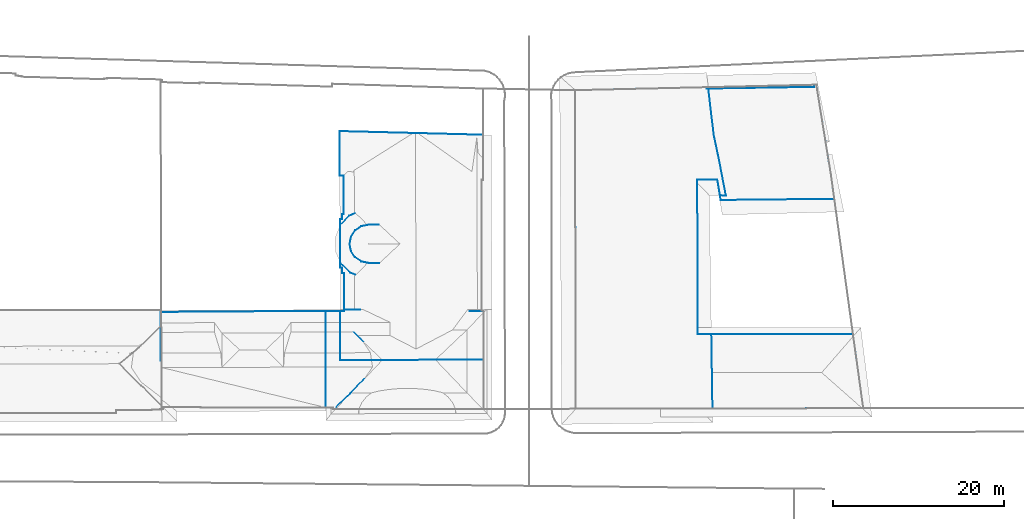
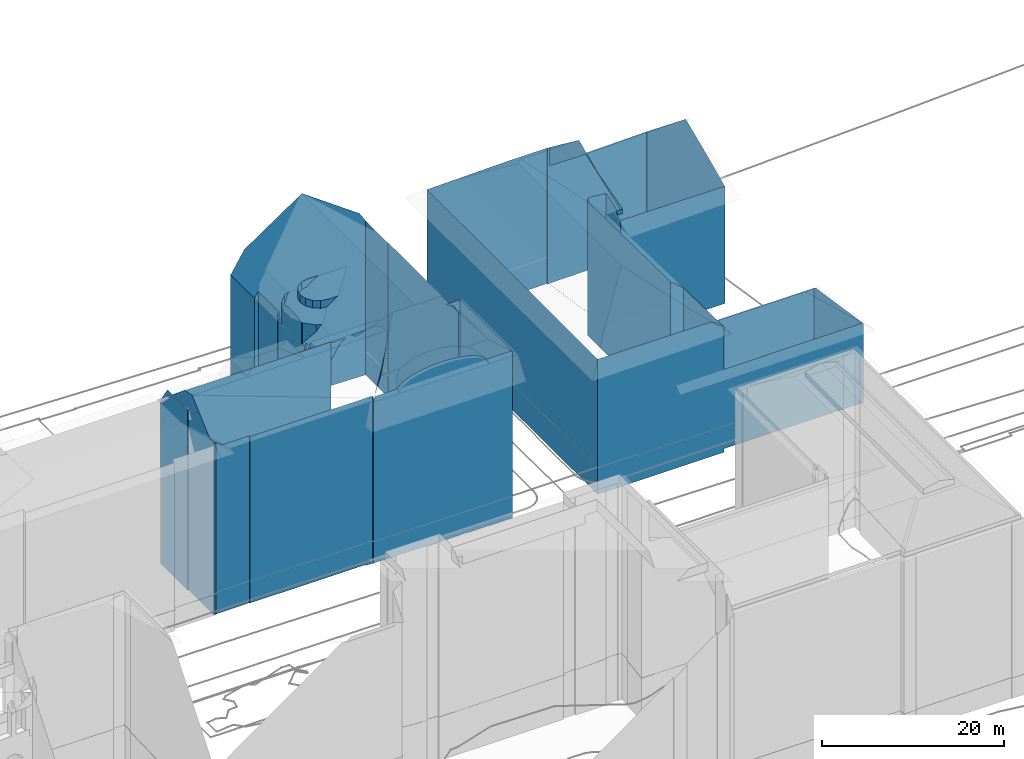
# Not in any storey, part 63 of 477: 2 walls.
"""IFC4 building model written with IfcOpenShell, lengths in metres."""

import ifcopenshell
import ifcopenshell.guid

model = None  # the IFC model being written
_history = None  # IfcOwnerHistory: only IFC2X3 demands one
_inside = {}  # id of a spatial element -> (the spatial element, [elements in it])
_under = {}  # id of a project, library or spatial element -> (it, [spatial elements below it])
_declared = {}  # id of a project -> (the project, [libraries it declares])
_typed = {}  # id of a type object -> (the type object, [elements of that type])
_made_of = {}  # id of a material, layer set ... -> (it, [elements and type objects made of it])


def new_model(schema):
    """Start an empty IFC model of exactly this schema.

    Asked for "IFC4X3", IfcOpenShell would pick the latest addendum, in which some entities
    have other attributes; the version numbers below select the first issue.
    IFC2X3 requires an IfcOwnerHistory on every rooted entity: one is made here for all.
    """
    global model, _history
    if schema == "IFC4X3":
        model = ifcopenshell.file(schema_version=(4, 3, 0, 0))
    else:
        model = ifcopenshell.file(schema=schema)
    _inside.clear()
    _under.clear()
    _declared.clear()
    _typed.clear()
    _made_of.clear()
    _history = None
    if model.schema == "IFC2X3":
        org = make("IfcOrganization", Name="unknown")
        user = make(
            "IfcPersonAndOrganization",
            ThePerson=make("IfcPerson", FamilyName="unknown"),
            TheOrganization=org,
        )
        app = make(
            "IfcApplication",
            ApplicationDeveloper=org,
            Version="unknown",
            ApplicationFullName="unknown",
            ApplicationIdentifier="unknown",
        )
        _history = make(
            "IfcOwnerHistory",
            OwningUser=user,
            OwningApplication=app,
            ChangeAction="ADDED",
            CreationDate=0,
        )
    return model


def make(cls, **values):
    """One entity of the class cls with the attributes given. An attribute that is None is left unset."""
    return model.create_entity(
        cls, **{name: value for name, value in values.items() if value is not None}
    )


def rooted(cls, **values):
    """An entity with a GlobalId (a new one), such as an element, a storey or a relation."""
    return make(cls, GlobalId=ifcopenshell.guid.new(), OwnerHistory=_history, **values)


def si_unit(unit_type, name, prefix=None):
    """IfcSIUnit, for example si_unit("LENGTHUNIT", "METRE", prefix="MILLI")."""
    return make("IfcSIUnit", UnitType=unit_type, Prefix=prefix, Name=name)


def assignment(units):
    """IfcUnitAssignment: the units of a project."""
    return None if units is None else make("IfcUnitAssignment", Units=units)


def point(xyz):
    """IfcCartesianPoint."""
    return None if xyz is None else make("IfcCartesianPoint", Coordinates=xyz)


def direction(xyz):
    """IfcDirection."""
    return None if xyz is None else make("IfcDirection", DirectionRatios=xyz)


def frame(location, z_axis=None, x_axis=None):
    """IfcAxis2Placement3D, a coordinate frame: its origin and axes. An axis left out is left unset."""
    return make(
        "IfcAxis2Placement3D",
        Location=point(location),
        Axis=direction(z_axis),
        RefDirection=direction(x_axis),
    )


def origin_with_axes():
    """The frame at (0, 0, 0) with the z axis (0, 0, 1) and the x axis (1, 0, 0) written out."""
    return frame((0.0, 0.0, 0.0), z_axis=(0.0, 0.0, 1.0), x_axis=(1.0, 0.0, 0.0))


def place(relative_to, where):
    """IfcLocalPlacement: puts the frame where relative to a parent placement (None: the world)."""
    return make(
        "IfcLocalPlacement", PlacementRelTo=relative_to, RelativePlacement=where
    )


def context(
    kind, dimensions, precision=None, world=None, true_north=None, identifier=None
):
    """IfcGeometricRepresentationContext, for example the 3D "Model" context."""
    return make(
        "IfcGeometricRepresentationContext",
        ContextIdentifier=identifier,
        ContextType=kind,
        CoordinateSpaceDimension=dimensions,
        Precision=precision,
        WorldCoordinateSystem=world,
        TrueNorth=true_north,
    )


def subcontext(parent, identifier, kind, view, scale=None):
    """IfcGeometricRepresentationSubContext, for example "Body" below "Model"."""
    return make(
        "IfcGeometricRepresentationSubContext",
        ContextIdentifier=identifier,
        ContextType=kind,
        ParentContext=parent,
        TargetScale=scale,
        TargetView=view,
    )


def project(units=None, contexts=None):
    """IfcProject with its units and contexts."""
    return rooted(
        "IfcProject",
        Name="project",
        RepresentationContexts=contexts,
        UnitsInContext=assignment(units),
    )


def spatial(cls, under=None, at=None, **own):
    """A site, building, storey or space (cls), placed at a placement, below another one or the project."""
    s = rooted(cls, ObjectPlacement=at, **own)
    if under is not None:
        _under.setdefault(under.id(), (under, []))[1].append(s)
    return s


def point_list(points):
    """IfcCartesianPointList2D or 3D."""
    cls = (
        "IfcCartesianPointList2D" if len(points[0]) == 2 else "IfcCartesianPointList3D"
    )
    return make(cls, CoordList=points)


def polygons(points, faces, closed=None, point_numbers=None):
    """IfcPolygonalFaceSet: a face is its outer loop, then its inner loops; points numbered from 1."""
    made = []
    for loops in faces:
        if len(loops) == 1:
            made.append(make("IfcIndexedPolygonalFace", CoordIndex=loops[0]))
        else:
            made.append(
                make(
                    "IfcIndexedPolygonalFaceWithVoids",
                    CoordIndex=loops[0],
                    InnerCoordIndices=loops[1:],
                )
            )
    return make(
        "IfcPolygonalFaceSet",
        Coordinates=point_list(points),
        Closed=closed,
        Faces=made,
        PnIndex=point_numbers,
    )


def shape(context_of_items, identifier, shape_type, items):
    """IfcShapeRepresentation: the items that make up one representation, for example the "Body"."""
    return make(
        "IfcShapeRepresentation",
        ContextOfItems=context_of_items,
        RepresentationIdentifier=identifier,
        RepresentationType=shape_type,
        Items=items,
    )


def made_of(thing, what):
    """Note that an element or type object is made of a material, layer set ...; save() writes the relation."""
    if what is not None:
        _made_of.setdefault(what.id(), (what, []))[1].append(thing)
    return thing


def element(
    cls,
    number,
    at=None,
    inside=None,
    cuts=None,
    type_object=None,
    material=None,
    context=None,
    identifier="Body",
    shape_type=None,
    held_by="IfcProductDefinitionShape",
    body=None,
    shapes=None,
    **own,
):
    """One element of the class cls, such as IfcWall. Its Tag is "e" and its number.

    at: its placement. inside: the storey or other place that contains it. cuts: it is an
    opening in that element (IfcRelVoidsElement). A single representation is given by context,
    identifier, shape_type and body (its items); several are given by shapes. held_by: the class
    of the entity that holds the representations. save() writes the other relations.
    """
    e = rooted(cls, Tag="e%d" % number, ObjectPlacement=at, **own)
    if body is not None:
        shapes = [shape(context, identifier, shape_type, body)]
    if shapes is not None:
        e.Representation = make(held_by, Representations=shapes)
    if inside is not None:
        _inside.setdefault(inside.id(), (inside, []))[1].append(e)
    if cuts is not None:
        rooted(
            "IfcRelVoidsElement", RelatingBuildingElement=cuts, RelatedOpeningElement=e
        )
    if type_object is not None:
        _typed.setdefault(type_object.id(), (type_object, []))[1].append(e)
    return made_of(e, material)


def aggregate(whole, parts):
    """IfcRelAggregates: a whole, such as a stair, and the parts it consists of."""
    return rooted("IfcRelAggregates", RelatingObject=whole, RelatedObjects=parts)


def save(model, path):
    """Write the relations noted so far, then the file.

    IfcRelAggregates (storeys below a building ...), IfcRelContainedInSpatialStructure (elements
    in a storey), IfcRelDefinesByType, IfcRelAssociatesMaterial and IfcRelDeclares: one each for
    every whole, place, type object, material and project.
    """
    for whole, parts in _under.values():
        aggregate(whole, parts)
    for where, things in _inside.values():
        rooted(
            "IfcRelContainedInSpatialStructure",
            RelatedElements=things,
            RelatingStructure=where,
        )
    for kind, things in _typed.values():
        rooted("IfcRelDefinesByType", RelatedObjects=things, RelatingType=kind)
    for what, things in _made_of.values():
        rooted("IfcRelAssociatesMaterial", RelatedObjects=things, RelatingMaterial=what)
    for by, libraries in _declared.values():
        rooted("IfcRelDeclares", RelatingContext=by, RelatedDefinitions=libraries)
    model.write(path)


model = new_model("IFC4")

# Units and contexts
model_context = context("Model", 3, precision=1e-05, world=origin_with_axes())
body_context = subcontext(model_context, "Body", "Model", "MODEL_VIEW")
ifc_project = project(units=[si_unit("AREAUNIT", "SQUARE_METRE"), si_unit("LENGTHUNIT", "METRE")], contexts=[model_context])

# Sites, building
site_1_placement = place(None, origin_with_axes())
site_1 = spatial("IfcSite", under=ifc_project, at=site_1_placement, Name="Topoexport Site")
site_2_placement = place(site_1_placement, origin_with_axes())
site_2 = spatial("IfcSite", under=site_1, at=site_2_placement, Name="TPX_BUILDINGS")
building_1_placement = place(site_2_placement, frame((609.5167320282, 438.1375160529, 539.7593), z_axis=(0.0, 0.0, 1.0), x_axis=(1.0, 0.0, 0.0)))
building_1 = spatial("IfcBuilding", under=site_2, at=building_1_placement, Name="Building 191", CompositionType="ELEMENT")

# Wall
wall_1_placement = place(None, frame((609.5167320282, 438.1375160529, 539.7593), z_axis=(0.0, 0.0, 1.0), x_axis=(1.0, 0.0, 0.0)))
element("IfcWall", 1, at=wall_1_placement, inside=building_1, Name="Wall 0", context=body_context, shape_type="Tessellation", body=[
    polygons([(0.0149999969, -5.9228000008, 24.1587), (0.1209999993, -5.9228000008, 24.1587), (0.1209999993, -5.9228000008, 0.0), (0.1030000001, 0.0, 0.0), (0.1030000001, -0.1074000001, 22.1049), (0.1030000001, 0.0, 21.9439), (0.1039999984, -0.2598999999, 0.0), (0.1039999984, -0.2598999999, 22.3299), (0.0, 0.0, 0.0), (0.0, 0.0, 21.9439), (22.731999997, 0.0566000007, 21.4279), (21.5199999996, 0.052699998, 21.9439), (21.5199999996, 0.052699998, 19.4171), (23.4599999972, 0.058600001, 21.9439), (22.2089999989, -9.7949000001, 23.7657), (23.935999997, -7.9726999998, 25.3945), (22.3169999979, -9.6807000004, 23.2977), (22.2089999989, -9.7949000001, 23.2387), (20.5009999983, -11.4307000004, 22.3028), (4.6939999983, -11.4638999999, 0.0), (4.6939999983, -11.3838, 0.0), (4.6939999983, -11.4638999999, 22.3088), (0.1359999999, -11.2479999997, 0.124), (0.3039999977, -11.4131000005, 0.124), (0.3039999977, -11.4131000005, 0.0), (0.1359999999, -11.2479999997, 0.0), (23.0949999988, -2.9912, 24.1587), (23.8159999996, -3.7168000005, 25.1556), (22.6569999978, -2.5487999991, 24.1587), (0.305999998, -11.4110000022, 0.124), (0.3129999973, -11.6317000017, 22.9078), (0.305999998, -11.4111000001, 5.8584), (0.305999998, -11.4111000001, 11.5919), (4.5319999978, -0.1816000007, 0.0), (4.5319999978, -0.1816000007, 22.2309), (19.3479999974, -0.1455000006, -0.121), (19.3479999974, -0.1455000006, 0.0), (19.3759999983, -11.442400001, 0.0), (19.3759999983, -11.442400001, -0.121), (36.1359999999, -0.1103000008, 22.1238), (37.1169999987, -0.1084000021, 21.4279), (37.8429999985, -0.1074000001, 22.1238), (37.8429999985, -0.1074000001, 20.224), (21.0249999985, 10.6259999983, -0.43), (21.2769999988, 10.6259999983, -0.43), (21.0249999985, 10.6259999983, 18.6392), (21.050999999, 4.9355999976, 18.6592), (21.2919999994, 4.9384999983, 19.0592), (21.2919999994, 4.9384000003, -0.43), (21.050999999, 4.9355999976, -0.43), (21.299999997, 4.3378999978, -0.43), (21.498999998, 4.3388999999, 19.4001), (21.498999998, 4.3388999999, -0.43), (21.299999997, 4.3378999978, 19.0702), (20.9859999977, 15.7421999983, -0.43), (20.9729999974, 20.9512000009, -0.4299), (20.9859999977, 15.7421999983, 18.5952), (20.9729999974, 20.9512000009, 18.5952), (21.4569999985, 15.7274999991, 19.3761), (21.4569999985, 15.7274999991, -0.43), (37.6539999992, -0.0898000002, -0.43), (37.8429999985, -0.0751999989, 14.9815), (37.6539999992, -0.0898000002, 20.537), (37.8429999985, -0.0751999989, -0.43), (37.8429999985, -0.0751999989, 20.224), (37.612999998, 15.245099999, 20.542), (37.8229999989, 15.2392999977, 20.1941), (37.8229999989, 15.2392999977, -0.43), (37.8149999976, 17.7168000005, -0.43), (37.8139999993, 18.1405999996, 20.1981), (37.805999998, 20.5243999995, 4.6196), (37.805999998, 20.5243999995, 15.0436), (37.805999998, 20.5243999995, 20.2011), (37.805999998, 20.5243999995, 9.899), (37.805999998, 20.5243999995, -0.43), (23.5359999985, 9.8183999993, 22.4608), (23.9179999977, 9.8955000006, 22.5068), (23.5359999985, 9.8183999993, 23.5097), (24.3929999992, 9.990199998, 23.5097), (24.1919999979, 9.9501999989, 22.4798), (24.3929999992, 9.990199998, 22.6228), (23.1329999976, 9.5478999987, 22.5078), (22.8099999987, 9.3310999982, 23.5097), (22.8099999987, 9.3310999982, 22.4608), (22.5409999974, 8.9267999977, 22.5078), (22.3249999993, 8.6035000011, 23.5097), (22.3249999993, 8.6035000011, 22.4608), (21.0389999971, -5.8720999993, -0.43), (21.0249999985, -0.1416000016, -0.121), (21.0389999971, -5.8720999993, -0.121), (22.2309999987, 8.1270000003, 22.5068), (22.1559999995, 7.745099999, 23.5097), (22.1559999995, 7.745099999, 22.4608), (22.2509999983, 7.2694999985, 22.5068), (22.3269999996, 6.8887000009, 23.5097), (22.3269999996, 6.8887000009, 22.4598), (22.5969999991, 6.4853999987, 22.5068), (22.8139999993, 6.1620999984, 23.5097), (22.8139999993, 6.1620999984, 22.4608), (23.2179999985, 5.8935999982, 22.5068), (23.5419999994, 5.6767999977, 23.5097), (23.5419999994, 5.6767999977, 22.4608), (24.2089999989, 5.5458999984, 22.4838), (24.0179999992, 5.5830000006, 22.5068), (24.3999999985, 5.5077999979, 22.6198), (24.3999999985, 5.5077999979, 23.5097), (25.6559999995, 5.5097999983, 23.5097), (25.6449999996, 9.9921999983, 23.5097), (21.112999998, 5.442400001, 18.7642), (21.0479999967, 5.5888999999, 21.5219), (21.112999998, 5.442400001, 21.5219), (22.2449999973, 4.3612999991, 21.5219), (22.2449999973, 4.3612999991, 20.637), (22.7049999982, 11.3057000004, 21.4279), (22.0889999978, 11.0331999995, 21.5219), (22.0889999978, 11.0331999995, 20.406), (22.8369999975, 11.3632999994, 21.5219), (21.0279999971, 9.9208999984, 21.5219), (21.0279999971, 9.9208999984, 18.6422), (22.8549999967, 4.125, 21.5219), (22.7219999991, 4.1757999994, 21.4279), (0.0039999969, -1.4941000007, 0.0), (0.0149999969, -5.9228000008, 0.0), (0.0039999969, -1.4941000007, 24.1587), (21.5209999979, -0.1405999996, 22.2319), (21.5209999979, -0.1405999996, -0.43), (20.2529999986, -11.441399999, -0.121), (20.2359999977, -11.6445000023, 22.1118), (20.2369999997, -11.634800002, 0.0), (20.2359999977, -11.6445000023, -0.121), (20.2369999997, -11.634800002, 22.1208), (20.2409999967, -11.5898000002, 22.1608), (20.2359999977, -11.6445000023, 22.1588), (20.2529999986, -11.441399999, 22.2938), (0.3129999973, -11.6317999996, 0.124), (0.1369999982, -11.6376999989, 22.9058), (0.1369999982, -11.6376999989, 0.124), (1.3079999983, -11.4061999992, 22.3678), (4.6939999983, -11.3838, 22.3808), (0.305999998, -11.4111000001, 23.0598), (37.8439999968, -0.2987999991, 22.2248), (37.856999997, -5.8300999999, -0.121), (37.8699999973, -11.6112999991, 22.2258), (37.8559999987, -5.8300999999, -0.43), (37.8699999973, -11.6112999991, -0.121), (34.2039999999, -11.6191000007, 22.7048), (34.5309999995, -11.6182000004, 22.3248), (33.6719999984, -11.620099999, 23.0537), (32.0849999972, -11.6229999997, 23.6127), (32.0859999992, -11.6229999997, 22.2838), (31.0909999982, -11.625, 23.7997), (30.0119999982, -11.6269000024, 22.2848), (30.0119999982, -11.6269000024, 23.9147), (37.0659999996, 20.5429999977, 21.4279), (22.680999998, 20.9081999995, 21.428), (29.873999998, 20.7256000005, 26.5265), (37.0659999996, 20.5429999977, -0.43), (29.873999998, 20.7256000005, -0.43), (22.680999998, 20.9081999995, -0.4299), (20.1369999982, -0.1435000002, -0.121), (21.0249999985, -0.1416000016, -0.43), (29.9389999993, -5.8496000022, -0.43), (29.9389999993, -5.8496000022, -0.121), (22.7469999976, -5.8672000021, -0.43), (22.7469999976, -5.8672000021, -0.121), (21.0409999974, 6.998999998, 21.8339), (21.0479999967, 5.5888999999, 18.6572), (21.0350000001, 8.3359000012, 21.8479), (21.0279999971, 9.8867000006, 21.5349), (0.1109999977, -2.6035000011, 24.1587), (0.1229999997, -6.7294999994, 26.5614), (0.1339999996, -10.5088, 23.1748), (0.1359999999, -11.2479999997, 23.1748), (0.117999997, -5.0557000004, 26.2435), (0.1229999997, -6.7294999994, 0.0), (19.4489999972, -11.442400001, 22.2948), (18.560999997, -11.4433999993, 22.2958), (18.560999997, -11.4433999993, 0.0), (34.5429999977, -11.6180999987, 22.2827), (37.7669999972, -11.6112999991, 22.2817), (37.7669999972, -11.6112999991, -0.121), (32.9569999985, -11.621100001, 23.3607), (28.8889999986, -11.628899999, 23.9537), (26.6879999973, -11.6328000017, 23.7997), (27.7669999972, -11.6308999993, 23.9147), (25.693, -11.634800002, 23.6127), (24.8219999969, -11.6367000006, 23.3607), (24.1059999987, -11.6376999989, 23.0538), (23.2359999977, -11.6396000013, 22.2868), (23.5749999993, -11.6387000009, 22.7048), (23.2469999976, -11.6396000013, 22.3248), (20.4719999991, -11.6445000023, 22.2878), (21.2769999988, 11.2294999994, -0.43), (21.4759999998, 11.2304999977, -0.43), (21.2769999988, 11.2294999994, 19.0602), (21.4759999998, 11.2304999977, 19.3901), (21.2769999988, 10.6259999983, 19.0572), (37.612999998, 15.245099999, -0.43)], [[[3, 2, 1]], [[6, 5, 4]], [[8, 7, 5]], [[10, 4, 9]], [[4, 10, 6]], [[13, 12, 11]], [[14, 11, 12]], [[17, 16, 15]], [[15, 18, 17]], [[15, 19, 18]], [[22, 21, 20]], [[25, 24, 23]], [[23, 26, 25]], [[29, 28, 27]], [[32, 31, 30]], [[32, 33, 31]], [[8, 35, 34]], [[34, 7, 8]], [[38, 37, 36]], [[38, 36, 39]], [[42, 41, 40]], [[42, 43, 41]], [[46, 45, 44]], [[49, 48, 47]], [[50, 49, 47]], [[53, 52, 51]], [[54, 51, 52]], [[57, 56, 55]], [[56, 57, 58]], [[55, 60, 59]], [[63, 62, 61]], [[61, 62, 64]], [[63, 65, 62]], [[66, 63, 61]], [[66, 68, 67]], [[71, 70, 69]], [[73, 70, 72]], [[74, 70, 71]], [[71, 69, 75]], [[67, 68, 70]], [[70, 68, 69]], [[78, 77, 76]], [[77, 78, 79]], [[77, 81, 80]], [[81, 77, 79]], [[84, 83, 82]], [[82, 78, 76]], [[78, 82, 83]], [[87, 86, 85]], [[85, 83, 84]], [[83, 85, 86]], [[90, 89, 88]], [[93, 92, 91]], [[91, 86, 87]], [[86, 91, 92]], [[96, 95, 94]], [[94, 92, 93]], [[92, 94, 95]], [[99, 98, 97]], [[97, 95, 96]], [[95, 97, 98]], [[102, 101, 100]], [[100, 98, 99]], [[98, 100, 101]], [[105, 104, 103]], [[104, 105, 106]], [[104, 101, 102]], [[101, 104, 106]], [[107, 106, 105]], [[79, 108, 81]], [[111, 110, 109]], [[113, 112, 111]], [[111, 109, 113]], [[116, 115, 114]], [[117, 114, 115]], [[119, 118, 116]], [[115, 116, 118]], [[121, 120, 112]], [[112, 113, 121]], [[123, 1, 122]], [[10, 9, 122]], [[10, 122, 124]], [[12, 13, 125]], [[125, 13, 126]], [[52, 126, 13]], [[52, 53, 126]], [[129, 128, 127]], [[127, 130, 129]], [[128, 131, 127]], [[133, 132, 131]], [[132, 127, 131]], [[127, 132, 134]], [[31, 136, 135]], [[135, 136, 137]], [[33, 21, 138]], [[138, 21, 139]], [[138, 140, 33]], [[33, 32, 21]], [[30, 25, 21]], [[30, 21, 32]], [[43, 42, 141]], [[65, 43, 62]], [[142, 64, 62]], [[43, 143, 62]], [[141, 143, 43]], [[64, 142, 144]], [[62, 143, 142]], [[143, 145, 142]], [[148, 147, 146]], [[151, 150, 149]], [[153, 152, 150]], [[153, 150, 151]], [[154, 73, 72]], [[154, 72, 155]], [[154, 155, 156]], [[155, 72, 58]], [[72, 74, 58]], [[71, 75, 157]], [[74, 71, 158]], [[56, 58, 159]], [[159, 58, 158]], [[71, 157, 158]], [[58, 74, 158]], [[37, 34, 125]], [[160, 37, 125]], [[160, 36, 37]], [[126, 161, 89]], [[89, 125, 126]], [[89, 160, 125]], [[34, 35, 125]], [[144, 142, 162]], [[162, 142, 163]], [[163, 165, 164]], [[165, 88, 164]], [[88, 165, 90]], [[163, 164, 162]], [[167, 110, 166]], [[167, 166, 168]], [[47, 167, 50]], [[119, 50, 167]], [[119, 167, 168]], [[119, 169, 118]], [[50, 119, 46]], [[46, 44, 50]], [[119, 168, 169]], [[2, 171, 170]], [[171, 2, 172]], [[136, 173, 172]], [[136, 172, 3]], [[2, 3, 172]], [[170, 171, 174]], [[175, 136, 3]], [[137, 136, 23]], [[175, 26, 23]], [[136, 175, 23]], [[127, 176, 38]], [[176, 127, 134]], [[39, 127, 38]], [[38, 176, 177]], [[22, 20, 178]], [[38, 177, 178]], [[178, 177, 22]], [[143, 180, 179]], [[143, 179, 181]], [[182, 149, 150]], [[147, 148, 181]], [[145, 143, 181]], [[181, 179, 147]], [[150, 148, 182]], [[152, 181, 150]], [[181, 148, 150]], [[181, 152, 129]], [[153, 183, 152]], [[152, 185, 184]], [[184, 186, 152]], [[187, 152, 186]], [[189, 187, 188]], [[188, 190, 189]], [[187, 189, 152]], [[190, 191, 189]], [[129, 189, 128]], [[152, 189, 129]], [[192, 128, 189]], [[152, 183, 185]], [[1, 123, 3]], [[4, 5, 7]], [[139, 21, 22]], [[140, 31, 33]], [[30, 31, 135]], [[195, 194, 193]], [[196, 194, 195]], [[45, 197, 195]], [[195, 193, 45]], [[197, 45, 46]], [[51, 48, 49]], [[48, 51, 54]], [[59, 57, 55]], [[196, 60, 194]], [[59, 60, 196]], [[198, 66, 61]], [[66, 198, 68]], [[70, 74, 72]], [[89, 161, 88]], [[110, 167, 109]], [[1, 124, 122]], [[25, 30, 24]]]),
])

# Building
building_2_placement = place(site_2_placement, frame((658.1087320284, 463.8807160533, 539.0134), z_axis=(0.0, 0.0, 1.0), x_axis=(1.0, 0.0, 0.0)))
building_2 = spatial("IfcBuilding", under=site_2, at=building_2_placement, Name="Building 192", CompositionType="ELEMENT")

# Wall
wall_2_placement = place(None, frame((658.1087320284, 463.8807160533, 539.0134), z_axis=(0.0, 0.0, 1.0), x_axis=(1.0, 0.0, 0.0)))
element("IfcWall", 2, at=wall_2_placement, inside=building_2, Name="Wall 0", context=body_context, shape_type="Tessellation", body=[
    polygons([(17.6669999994, -12.3252000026, 16.8863), (16.8699999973, -8.1768000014, 19.5611), (16.8699999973, -8.1768000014, 19.4861), (17.6669999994, -12.3252000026, 16.2744), (16.9689999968, -12.3155000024, -0.0001), (17.6669999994, -12.3252000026, 0.0319), (17.6669999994, -12.3252000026, -0.0001), (16.9689999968, -12.3155000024, 0.0319), (16.8699999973, -8.1768000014, -0.0001), (16.2399999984, -5.2159000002, 0.0319), (16.2399999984, -5.2159000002, -0.0001), (16.8699999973, -8.1768000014, 0.0319), (15.6049999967, 0.1932999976, 0.0319), (15.6049999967, 0.1932999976, 0.0), (16.0279999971, -33.058600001, 14.4285), (15.9579999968, -28.5850000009, 16.7933), (15.9579999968, -28.5850000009, 10.9529), (16.0939999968, -37.2979000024, 11.0978), (16.0939999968, -37.2979000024, 16.8043), (15.9579999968, -28.5850000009, -0.0001), (16.0939999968, -37.2979000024, -0.0001), (15.9579999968, -28.5850000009, 0.4679), (17.0599999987, -12.8632999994, 15.8714), (30.3709999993, -12.7294999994, 15.7154), (17.0599999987, -12.8632999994, 9.932), (30.3709999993, -12.7294999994, 0.0319), (17.0599999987, -12.8632999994, 0.0319), (17.0599999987, -12.8632999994, 3.9915), (29.9799999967, -9.9043000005, 4.4985), (29.9799999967, -9.9043000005, 17.9002), (29.9799999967, -9.9043000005, 0.0319), (28.0159999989, 0.6367000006, 0.0319), (28.2659999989, 0.6405999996, 0.0319), (28.0159999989, 0.6367000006, 15.6804), (28.2659999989, 0.6405999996, 3.9446), (28.0189999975, 0.3867000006, 3.9936), (28.0189999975, 0.3867000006, 0.0319), (16.9689999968, -12.3155000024, 16.8453), (16.4669999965, -6.2822999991, 20.9539), (16.2399999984, -5.2159000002, 22.2848), (16.2399999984, -5.2159000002, 20.101), (15.6049999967, 0.1932999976, 15.7844), (15.6049999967, 0.1932999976, 18.2452), (15.3899999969, 0.1904000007, 4.5615), (15.3859999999, 0.3495999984, 13.5657), (15.3899999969, 0.1904000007, 0.0), (15.3899999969, 0.1904000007, 13.6856), (15.3899999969, 0.1904000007, 18.2472), (32.5909999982, -28.7871000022, 11.0988), (32.5579999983, -28.5489000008, 10.9138), (32.5579999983, -28.5489000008, 0.4678), (33.7629999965, -37.2608000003, 0.4678), (33.7629999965, -37.2608000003, 11.0358), (14.310999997, -10.884800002, -0.0001), (14.310999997, -10.884800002, 17.9362), (14.3099999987, -10.4561000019, -0.0001), (14.3099999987, -10.4561000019, 18.3202), (14.3609999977, -28.5879000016, 10.9569), (14.3549999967, -26.5196000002, 18.1262), (14.3549999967, -26.5196000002, -0.0001), (14.3609999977, -28.5879000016, -0.0001), (14.3609999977, -28.5879000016, 0.4679), (14.3609999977, -28.5879000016, 18.1222), (16.6599999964, -10.4463, 18.1712), (16.6599999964, -10.4463, -0.0001), (14.9199999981, -10.4532000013, 18.3652), (14.9199999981, -10.4532000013, -0.0001), (0.0219999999, -13.4013999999, 18.1612), (0.0599999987, -37.3321000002, -0.0001), (0.0219999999, -13.4013999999, -0.0001), (0.0599999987, -37.3321000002, 18.0872), (0.0, 0.0, 0.0), (0.0, 0.0, 18.1502), (14.6489999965, -28.5870000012, 17.9062), (29.3379999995, -5.9561000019, 20.9539), (28.2659999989, 0.6405999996, 15.6824), (29.3379999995, -5.9561000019, 0.0319), (28.0189999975, 0.3867000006, 11.9178), (28.0189999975, 0.3867000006, 15.8794), (9.9649999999, 0.2265000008, 18.2122), (0.0399999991, 0.0009000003, 18.1792), (15.3859999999, 0.3495999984, 9.0041), (9.9649999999, 0.2265000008, 0.0), (15.3859999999, 0.3495999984, 18.1272), (13.8099999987, 0.3143999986, 18.1542), (15.3859999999, 0.3495999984, 0.0), (13.8099999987, 0.3143999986, 0.0), (16.8819999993, -11.7901000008, -0.0001), (16.8819999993, -11.7901000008, 17.3093), (16.9689999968, -12.3155000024, 16.2954), (33.629999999, -37.2608000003, 11.1398), (3.6889999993, -37.3243000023, 18.0972), (16.0939999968, -37.2979000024, 0.4678), (33.629999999, -37.2608000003, 0.4678), (14.5039999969, -37.3007999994, -0.0001), (14.5039999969, -37.3007999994, 18.0152), (15.8889999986, -37.2979000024, 16.9783), (3.6889999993, -37.3243000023, -0.0001)], [[[3, 2, 1]], [[1, 4, 3]], [[7, 6, 5]], [[8, 5, 6]], [[11, 10, 9]], [[12, 9, 10]], [[14, 13, 10]], [[10, 11, 14]], [[17, 16, 15]], [[15, 19, 18]], [[19, 15, 16]], [[22, 21, 20]], [[25, 24, 23]], [[28, 27, 26]], [[28, 26, 25]], [[30, 24, 29]], [[24, 26, 31]], [[34, 33, 32]], [[34, 35, 33]], [[36, 34, 32]], [[36, 32, 37]], [[9, 12, 7]], [[6, 7, 12]], [[1, 38, 4]], [[41, 40, 39]], [[39, 2, 3]], [[2, 39, 40]], [[43, 41, 42]], [[46, 45, 44]], [[48, 47, 45]], [[51, 50, 49]], [[49, 53, 52]], [[49, 52, 51]], [[56, 55, 54]], [[55, 56, 57]], [[58, 54, 55]], [[55, 59, 58]], [[58, 60, 54]], [[60, 62, 61]], [[62, 60, 58]], [[58, 59, 63]], [[66, 65, 64]], [[57, 67, 65]], [[56, 67, 57]], [[57, 65, 66]], [[70, 69, 68]], [[68, 69, 71]], [[73, 72, 70]], [[73, 70, 68]], [[58, 63, 74]], [[58, 74, 16]], [[62, 58, 22]], [[17, 58, 16]], [[22, 58, 17]], [[17, 51, 22]], [[61, 62, 22]], [[20, 61, 22]], [[17, 50, 51]], [[76, 75, 30]], [[30, 35, 76]], [[29, 35, 30]], [[35, 29, 77]], [[33, 35, 77]], [[31, 77, 29]], [[78, 44, 47]], [[46, 44, 13]], [[13, 14, 46]], [[13, 44, 36]], [[47, 48, 42]], [[43, 42, 48]], [[42, 79, 78]], [[13, 36, 37]], [[36, 44, 78]], [[42, 78, 47]], [[73, 81, 80]], [[82, 72, 73]], [[82, 83, 72]], [[73, 80, 45]], [[85, 84, 45]], [[45, 82, 73]], [[87, 82, 86]], [[87, 83, 82]], [[80, 85, 45]], [[27, 28, 8]], [[8, 28, 88]], [[5, 8, 88]], [[28, 65, 88]], [[28, 25, 65]], [[90, 38, 89]], [[90, 89, 64]], [[25, 90, 64]], [[23, 90, 25]], [[64, 65, 25]], [[53, 91, 18]], [[18, 19, 92]], [[53, 18, 93]], [[94, 52, 53]], [[94, 53, 93]], [[18, 95, 93]], [[97, 96, 92]], [[18, 92, 71]], [[18, 71, 69]], [[21, 93, 95]], [[98, 18, 69]], [[18, 98, 95]], [[97, 92, 19]], [[93, 21, 22]], [[26, 24, 25]], [[24, 31, 29]], [[76, 35, 34]], [[79, 34, 78]], [[36, 78, 34]], [[38, 90, 4]], [[40, 41, 43]], [[82, 45, 46]], [[46, 86, 82]], [[48, 45, 84]], [[47, 44, 45]]]),
])

save(model, "model.ifc")
